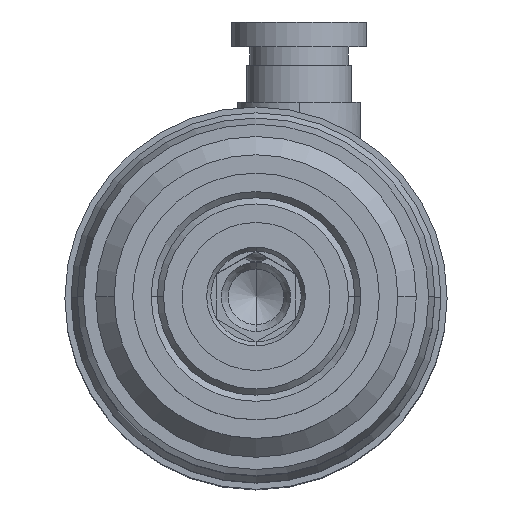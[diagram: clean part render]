
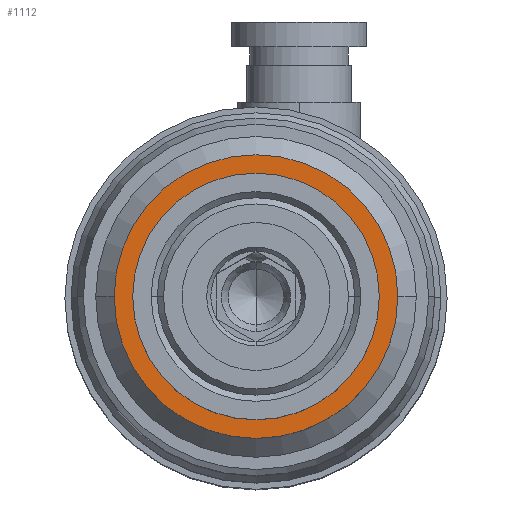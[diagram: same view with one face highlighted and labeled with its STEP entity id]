
A CAD part, top view. The second image highlights one B-rep face of the part: STEP entity #1112.
In plain terms, the highlighted planar face has unit normal (0, 0, 1).
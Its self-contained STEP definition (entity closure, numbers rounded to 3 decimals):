
#1000 = EDGE_CURVE ( 'NONE', #1001, #1002, #7789, .T. ) ;
#1001 = VERTEX_POINT ( 'NONE', #7785 ) ;
#1002 = VERTEX_POINT ( 'NONE', #7784 ) ;
#1041 = VERTEX_POINT ( 'NONE', #7836 ) ;
#1043 = EDGE_CURVE ( 'NONE', #1044, #1041, #7902, .T. ) ;
#1044 = VERTEX_POINT ( 'NONE', #7897 ) ;
#1111 = EDGE_CURVE ( 'NONE', #1041, #1044, #7980, .T. ) ;
#1112 = ADVANCED_FACE ( 'NONE', ( #7975, #7974 ), #7973, .F. ) ;
#1113 = EDGE_LOOP ( 'NONE', ( #1114, #1115 ) ) ;
#1114 = ORIENTED_EDGE ( 'NONE', *, *, #1000, .F. ) ;
#1115 = ORIENTED_EDGE ( 'NONE', *, *, #1165, .F. ) ;
#1165 = EDGE_CURVE ( 'NONE', #1002, #1001, #8036, .T. ) ;
#1166 = EDGE_LOOP ( 'NONE', ( #1167, #1168 ) ) ;
#1167 = ORIENTED_EDGE ( 'NONE', *, *, #1043, .T. ) ;
#1168 = ORIENTED_EDGE ( 'NONE', *, *, #1111, .T. ) ;
#7784 = CARTESIAN_POINT ( 'NONE',  ( -10., 0., -4. ) ) ;
#7785 = CARTESIAN_POINT ( 'NONE',  ( 10., 0., -4. ) ) ;
#7786 = DIRECTION ( 'NONE',  ( 1., 0., 0. ) ) ;
#7787 = DIRECTION ( 'NONE',  ( 0., 0., 1. ) ) ;
#7788 = AXIS2_PLACEMENT_3D ( 'NONE', #7794, #7787, #7786 ) ;
#7789 = CIRCLE ( 'NONE', #7788, 10. ) ;
#7794 = CARTESIAN_POINT ( 'NONE',  ( 0., 0., -4. ) ) ;
#7836 = CARTESIAN_POINT ( 'NONE',  ( -11.5, 0., -4. ) ) ;
#7897 = CARTESIAN_POINT ( 'NONE',  ( 11.5, 0., -4. ) ) ;
#7898 = DIRECTION ( 'NONE',  ( 1., 0., 0. ) ) ;
#7899 = DIRECTION ( 'NONE',  ( 0., 0., 1. ) ) ;
#7900 = CARTESIAN_POINT ( 'NONE',  ( 0., 0., -4. ) ) ;
#7901 = AXIS2_PLACEMENT_3D ( 'NONE', #7900, #7899, #7898 ) ;
#7902 = CIRCLE ( 'NONE', #7901, 11.5 ) ;
#7969 = DIRECTION ( 'NONE',  ( -1., 0., 0. ) ) ;
#7970 = DIRECTION ( 'NONE',  ( 0., 0., -1. ) ) ;
#7971 = CARTESIAN_POINT ( 'NONE',  ( 0., 11.5, -4. ) ) ;
#7972 = AXIS2_PLACEMENT_3D ( 'NONE', #7971, #7970, #7969 ) ;
#7973 = PLANE ( 'NONE',  #7972 ) ;
#7974 = FACE_OUTER_BOUND ( 'NONE', #1166, .T. ) ;
#7975 = FACE_BOUND ( 'NONE', #1113, .T. ) ;
#7976 = DIRECTION ( 'NONE',  ( 1., 0., 0. ) ) ;
#7977 = DIRECTION ( 'NONE',  ( 0., 0., 1. ) ) ;
#7978 = CARTESIAN_POINT ( 'NONE',  ( 0., 0., -4. ) ) ;
#7979 = AXIS2_PLACEMENT_3D ( 'NONE', #7978, #7977, #7976 ) ;
#7980 = CIRCLE ( 'NONE', #7979, 11.5 ) ;
#8034 = DIRECTION ( 'NONE',  ( 0., 0., 1. ) ) ;
#8035 = AXIS2_PLACEMENT_3D ( 'NONE', #8040, #8034, #8101 ) ;
#8036 = CIRCLE ( 'NONE', #8035, 10. ) ;
#8040 = CARTESIAN_POINT ( 'NONE',  ( 0., 0., -4. ) ) ;
#8101 = DIRECTION ( 'NONE',  ( 1., 0., 0. ) ) ;
